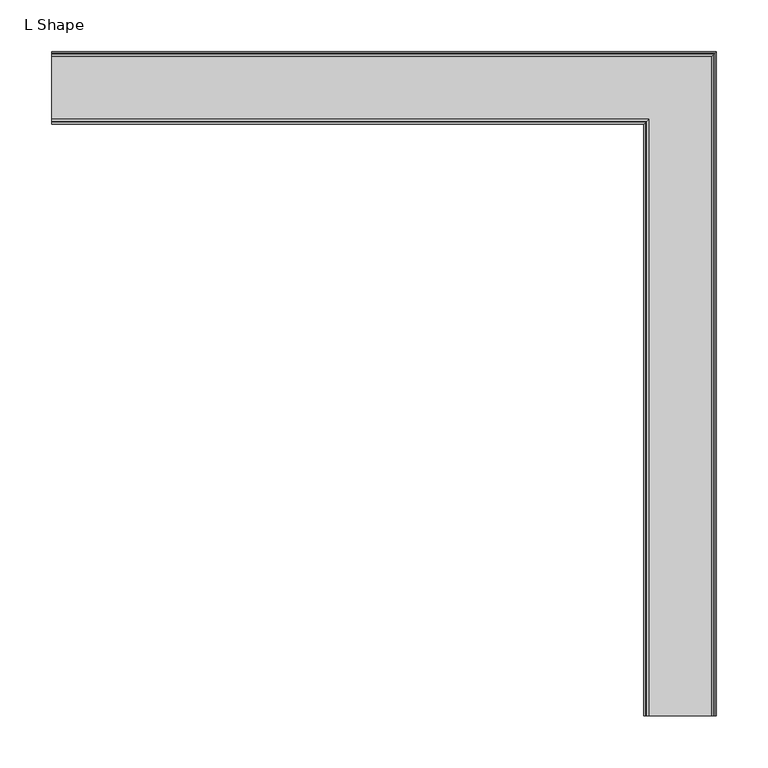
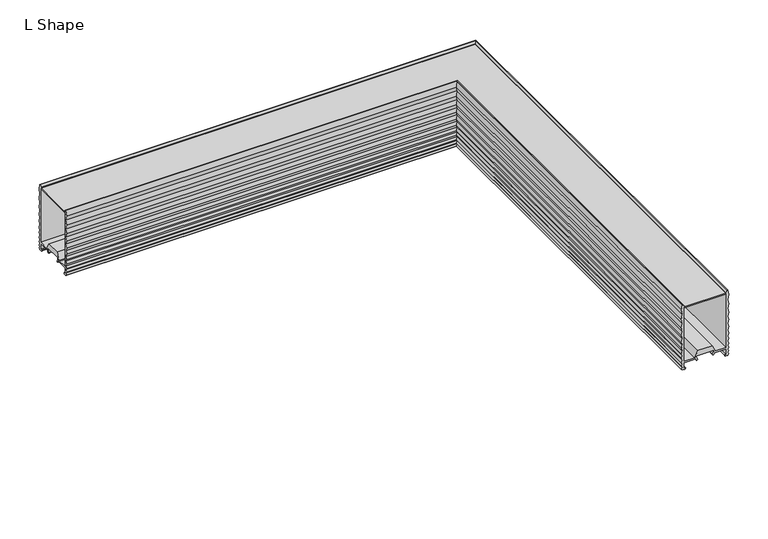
"""IFC4 building model written with IfcOpenShell, lengths in millimetres: light fixture geometry, Lighting-Ceiling-Betacalco-Bellows-L_Shape : L Shape."""

from ifc_helpers import new_model, si_unit, frame, origin, place, context, project, spatial, polyline, circle_curve, ellipse_curve, outline, extrude, source, transform, mapped, element, save
from ifc_brep_helpers import plane_surface, cylinder_surface, advanced_brep


def l_shape_abac3c9d(model_context):
    return source(origin(), model_context, "Body", "SolidModel", [
        advanced_brep(
        [(273.578, -609.6, 10.668), (291.2870711, -609.6, 10.668), (292.0570321, -609.6, 8.614822), (293.7447356, -609.6, 9.2406239), (292.11399, -609.6, 13.5891701), (292.7358437, -609.6, 14.8333325), (316.8641563, -609.6, 14.8333325), (317.48601, -609.6, 13.5891701), (315.8552644, -609.6, 9.2406239), (317.5429679, -609.6, 8.614822), (318.3129289, -609.6, 10.668), (336.022, -609.6, 10.668), (336.022, -609.6, 2.159), (333.4925845, -609.6, 2.159), (335.4378, -609.6, 0.0), (338.0887943, -609.6, 0.0), (339.9621621, -609.6, 2.0283861), (338.181, -609.6, 4.064), (339.959, -609.6, 6.604), (338.181, -609.6, 9.144), (339.959, -609.6, 12.192), (338.181, -609.6, 15.24), (339.959, -609.6, 18.796), (338.181, -609.6, 22.352), (339.959, -609.6, 26.162), (338.181, -609.6, 29.972), (339.9303587, -609.6, 34.4703509), (338.2082002, -609.6, 39.0460566), (339.9355055, -609.6, 44.1288728), (338.2034215, -609.6, 49.2119386), (339.9393965, -609.6, 54.802389), (338.1997837, -609.6, 60.3929656), (339.9424053, -609.6, 66.491104), (338.1964031, -609.6, 72.5911894), (339.9466792, -609.6, 79.7067168), (338.1931082, -609.6, 86.8195673), (339.9474913, -609.6, 94.186321), (338.1814932, -609.6, 101.6), (337.3877432, -609.6, 101.6), (335.22825, -609.6, 99.2470342), (335.22825, -609.6, 97.7961196), (336.022, -609.6, 97.7961196), (336.022, -609.6, 12.827), (320.2806146, -609.6, 12.827), (315.4222255, -609.6, 22.5473325), (294.1777745, -609.6, 22.5473325), (289.3193854, -609.6, 12.827), (273.578, -609.6, 12.827), (273.578, -609.6, 97.7961196), (274.37175, -609.6, 97.7961196), (274.37175, -609.6, 99.2470342), (272.2122568, -609.6, 101.6), (271.4185068, -609.6, 101.6), (269.6525087, -609.6, 94.186321), (271.4068918, -609.6, 86.8195673), (269.6533208, -609.6, 79.7067168), (271.4035969, -609.6, 72.5911894), (269.6575947, -609.6, 66.491104), (271.4002163, -609.6, 60.3929656), (269.6606035, -609.6, 54.802389), (271.3965785, -609.6, 49.2119386), (269.6644945, -609.6, 44.1288728), (271.3917998, -609.6, 39.0460566), (269.6696413, -609.6, 34.4703509), (271.419, -609.6, 29.972), (269.641, -609.6, 26.162), (271.419, -609.6, 22.352), (269.641, -609.6, 18.796), (271.419, -609.6, 15.24), (269.641, -609.6, 12.192), (271.419, -609.6, 9.144), (269.641, -609.6, 6.604), (271.419, -609.6, 4.064), (269.6378379, -609.6, 2.0283861), (271.5112057, -609.6, 0.0), (274.1622, -609.6, 0.0), (276.1074155, -609.6, 2.159), (273.578, -609.6, 2.159), (-304.8, -31.222, 10.668), (-304.8, -31.222, 2.159), (-304.8, -28.6925845, 2.159), (-304.8, -30.6378, 0.0), (-304.8, -33.2887943, 0.0), (-304.8, -35.1621621, 2.0283861), (-304.8, -33.381, 4.064), (-304.8, -35.159, 6.604), (-304.8, -33.381, 9.144), (-304.8, -35.159, 12.192), (-304.8, -33.381, 15.24), (-304.8, -35.159, 18.796), (-304.8, -33.381, 22.352), (-304.8, -35.159, 26.162), (-304.8, -33.381, 29.972), (-304.8, -35.1303587, 34.4703509), (-304.8, -33.4082002, 39.0460566), (-304.8, -35.1355055, 44.1288728), (-304.8, -33.4034215, 49.2119386), (-304.8, -35.1393965, 54.802389), (-304.8, -33.3997837, 60.3929656), (-304.8, -35.1424053, 66.491104), (-304.8, -33.3964031, 72.5911894), (-304.8, -35.1466792, 79.7067168), (-304.8, -33.3931082, 86.8195673), (-304.8, -35.1474913, 94.186321), (-304.8, -33.3814932, 101.6), (-304.8, -32.5877432, 101.6), (-304.8, -30.42825, 99.2470342), (-304.8, -30.42825, 97.7961196), (-304.8, -31.222, 97.7961196), (-304.8, -31.222, 12.827), (-304.8, -15.4806146, 12.827), (-304.8, -10.6222255, 22.5473325), (-304.8, 10.6222255, 22.5473325), (-304.8, 15.4806146, 12.827), (-304.8, 31.222, 12.827), (-304.8, 31.222, 97.7961196), (-304.8, 30.42825, 97.7961196), (-304.8, 30.42825, 99.2470342), (-304.8, 32.5877432, 101.6), (-304.8, 33.3814932, 101.6), (-304.8, 35.1474913, 94.186321), (-304.8, 33.3931082, 86.8195673), (-304.8, 35.1466792, 79.7067168), (-304.8, 33.3964031, 72.5911894), (-304.8, 35.1424053, 66.491104), (-304.8, 33.3997837, 60.3929656), (-304.8, 35.1393965, 54.802389), (-304.8, 33.4034215, 49.2119386), (-304.8, 35.1355055, 44.1288728), (-304.8, 33.4082002, 39.0460566), (-304.8, 35.1303587, 34.4703509), (-304.8, 33.381, 29.972), (-304.8, 35.159, 26.162), (-304.8, 33.381, 22.352), (-304.8, 35.159, 18.796), (-304.8, 33.381, 15.24), (-304.8, 35.159, 12.192), (-304.8, 33.381, 9.144), (-304.8, 35.159, 6.604), (-304.8, 33.381, 4.064), (-304.8, 35.1621621, 2.0283861), (-304.8, 33.2887943, 0.0), (-304.8, 30.6378, 0.0), (-304.8, 28.6925845, 2.159), (-304.8, 31.222, 2.159), (-304.8, 31.222, 10.668), (-304.8, 13.5129289, 10.668), (-304.8, 12.7429679, 8.614822), (-304.8, 11.0552644, 9.2406239), (-304.8, 12.68601, 13.5891701), (-304.8, 12.0641563, 14.8333325), (-304.8, -12.0641563, 14.8333325), (-304.8, -12.68601, 13.5891701), (-304.8, -11.0552644, 9.2406239), (-304.8, -12.7429679, 8.614822), (-304.8, -13.5129289, 10.668), (292.0570321, -12.7429679, 8.614822), (291.2870711, -13.5129289, 10.668), (293.7447356, -11.0552644, 9.2406239), (292.11399, -12.68601, 13.5891701), (292.7358437, -12.0641563, 14.8333325), (317.48601, 12.68601, 13.5891701), (316.8641563, 12.0641563, 14.8333325), (315.8552644, 11.0552644, 9.2406239), (317.5429679, 12.7429679, 8.614822), (318.3129289, 13.5129289, 10.668), (336.022, 31.222, 2.159), (336.022, 31.222, 10.668), (335.4378, 30.6378, 0.0), (333.4925845, 28.6925845, 2.159), (339.9621621, 35.1621621, 2.0283861), (338.0887943, 33.2887943, 0.0), (338.181, 33.381, 4.064), (339.959, 35.159, 6.604), (338.181, 33.381, 9.144), (339.959, 35.159, 12.192), (338.181, 33.381, 15.24), (339.959, 35.159, 18.796), (338.181, 33.381, 22.352), (339.959, 35.159, 26.162), (338.181, 33.381, 29.972), (339.9303587, 35.1303587, 34.4703509), (338.2082002, 33.4082002, 39.0460566), (339.9355055, 35.1355055, 44.1288728), (338.2034215, 33.4034215, 49.2119386), (339.9393965, 35.1393965, 54.802389), (338.1997837, 33.3997837, 60.3929656), (339.9424053, 35.1424053, 66.491104), (338.1964031, 33.3964031, 72.5911894), (339.9466792, 35.1466792, 79.7067168), (338.1931082, 33.3931082, 86.8195673), (339.9474913, 35.1474913, 94.186321), (338.1814932, 33.3814932, 101.6), (335.22825, 30.42825, 99.2470342), (337.3877432, 32.5877432, 101.6), (335.22825, 30.42825, 97.7961196), (336.022, 31.222, 12.827), (336.022, 31.222, 97.7961196), (315.4222255, 10.6222255, 22.5473325), (320.2806146, 15.4806146, 12.827), (289.3193854, -15.4806146, 12.827), (294.1777745, -10.6222255, 22.5473325), (273.578, -31.222, 97.7961196), (273.578, -31.222, 12.827), (274.37175, -30.42825, 99.2470342), (274.37175, -30.42825, 97.7961196), (272.2122568, -32.5877432, 101.6), (269.6525087, -35.1474913, 94.186321), (271.4185068, -33.3814932, 101.6), (271.4068918, -33.3931082, 86.8195673), (269.6533208, -35.1466792, 79.7067168), (271.4035969, -33.3964031, 72.5911894), (269.6575947, -35.1424053, 66.491104), (271.4002163, -33.3997837, 60.3929656), (269.6606035, -35.1393965, 54.802389), (271.3965785, -33.4034215, 49.2119386), (269.6644945, -35.1355055, 44.1288728), (271.3917998, -33.4082002, 39.0460566), (269.6696413, -35.1303587, 34.4703509), (271.419, -33.381, 29.972), (269.641, -35.159, 26.162), (271.419, -33.381, 22.352), (269.641, -35.159, 18.796), (271.419, -33.381, 15.24), (269.641, -35.159, 12.192), (271.419, -33.381, 9.144), (269.641, -35.159, 6.604), (271.419, -33.381, 4.064), (269.6378379, -35.1621621, 2.0283861), (271.5112057, -33.2887943, 0.0), (276.1074155, -28.6925845, 2.159), (274.1622, -30.6378, 0.0), (273.578, -31.222, 10.668), (273.578, -31.222, 2.159)],
        [
            (0, 1),
            (1, 2),
            (2, 3, circle_curve(frame((292.8997277, -609.6, 8.9308408), z_axis=(0.0, -1.0, 0.0), x_axis=(0.34325550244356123, 0.0, -0.9392420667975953)), 0.9000021)),
            (3, 4),
            (4, 5),
            (5, 6),
            (6, 7),
            (7, 8),
            (8, 9, circle_curve(frame((316.7002723, -609.6, 8.9308408), z_axis=(0.0, -1.0, 0.0), x_axis=(-0.34325550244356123, 0.0, -0.9392420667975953)), 0.9000021)),
            (9, 10),
            (10, 11),
            (11, 12),
            (12, 13),
            (13, 14, circle_curve(frame((335.4378, -609.6, 1.9558), z_axis=(0.0, -1.0, 0.0), x_axis=(0.0, 0.0, -1.0)), 1.9558)),
            (14, 15),
            (15, 16),
            (16, 17),
            (17, 18),
            (18, 19),
            (19, 20),
            (20, 21),
            (21, 22),
            (22, 23),
            (23, 24),
            (24, 25),
            (25, 26),
            (26, 27),
            (27, 28),
            (28, 29),
            (29, 30),
            (30, 31),
            (31, 32),
            (32, 33),
            (33, 34),
            (34, 35),
            (35, 36),
            (36, 37),
            (37, 38),
            (38, 39),
            (39, 40),
            (40, 41),
            (41, 42),
            (42, 43),
            (43, 44),
            (44, 45),
            (45, 46),
            (46, 47),
            (47, 48),
            (48, 49),
            (49, 50),
            (50, 51),
            (51, 52),
            (52, 53),
            (53, 54),
            (54, 55),
            (55, 56),
            (56, 57),
            (57, 58),
            (58, 59),
            (59, 60),
            (60, 61),
            (61, 62),
            (62, 63),
            (63, 64),
            (64, 65),
            (65, 66),
            (66, 67),
            (67, 68),
            (68, 69),
            (69, 70),
            (70, 71),
            (71, 72),
            (72, 73),
            (73, 74),
            (74, 75),
            (75, 76, circle_curve(frame((274.1622, -609.6, 1.9558), z_axis=(0.0, -1.0, 0.0), x_axis=(0.0, 0.0, -1.0)), 1.9558)),
            (76, 77),
            (77, 0),
            (78, 79),
            (79, 80),
            (80, 81, circle_curve(frame((-304.8, -30.6378, 1.9558), z_axis=(-1.0, 0.0, 0.0), x_axis=(0.0, 0.0, -1.0)), 1.9558)),
            (81, 82),
            (82, 83),
            (83, 84),
            (84, 85),
            (85, 86),
            (86, 87),
            (87, 88),
            (88, 89),
            (89, 90),
            (90, 91),
            (91, 92),
            (92, 93),
            (93, 94),
            (94, 95),
            (95, 96),
            (96, 97),
            (97, 98),
            (98, 99),
            (99, 100),
            (100, 101),
            (101, 102),
            (102, 103),
            (103, 104),
            (104, 105),
            (105, 106),
            (106, 107),
            (107, 108),
            (108, 109),
            (109, 110),
            (110, 111),
            (111, 112),
            (112, 113),
            (113, 114),
            (114, 115),
            (115, 116),
            (116, 117),
            (117, 118),
            (118, 119),
            (119, 120),
            (120, 121),
            (121, 122),
            (122, 123),
            (123, 124),
            (124, 125),
            (125, 126),
            (126, 127),
            (127, 128),
            (128, 129),
            (129, 130),
            (130, 131),
            (131, 132),
            (132, 133),
            (133, 134),
            (134, 135),
            (135, 136),
            (136, 137),
            (137, 138),
            (138, 139),
            (139, 140),
            (140, 141),
            (141, 142),
            (142, 143, circle_curve(frame((-304.8, 30.6378, 1.9558), z_axis=(-1.0, 0.0, 0.0), x_axis=(0.0, 0.0, -1.0)), 1.9558)),
            (143, 144),
            (144, 145),
            (145, 146),
            (146, 147),
            (147, 148, circle_curve(frame((-304.8, 11.9002723, 8.9308408), z_axis=(-1.0, 0.0, 0.0), x_axis=(0.0, -0.34325550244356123, -0.9392420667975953)), 0.9000021)),
            (148, 149),
            (149, 150),
            (150, 151),
            (151, 152),
            (152, 153),
            (153, 154, circle_curve(frame((-304.8, -11.9002723, 8.9308408), z_axis=(-1.0, 0.0, 0.0), x_axis=(0.0, 0.34325550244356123, -0.9392420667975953)), 0.9000021)),
            (154, 155),
            (155, 78),
            (156, 157),
            (157, 155),
            (154, 156),
            (158, 156, ellipse_curve(frame((292.8997277, -11.9002723, 8.9308408), z_axis=(-0.7071067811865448, 0.7071067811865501, 0.0), x_axis=(0.7071067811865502, 0.7071067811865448, 0.0)), 1.2727952, 0.9000021)),
            (153, 158),
            (159, 158),
            (152, 159),
            (160, 159),
            (151, 160),
            (161, 162),
            (162, 150),
            (149, 161),
            (163, 161),
            (148, 163),
            (164, 163, ellipse_curve(frame((316.7002723, 11.9002723, 8.9308408), z_axis=(-0.7071067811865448, 0.7071067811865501, 0.0), x_axis=(0.7071067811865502, 0.7071067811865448, 0.0)), 1.2727952, 0.9000021)),
            (147, 164),
            (165, 164),
            (146, 165),
            (166, 167),
            (167, 145),
            (144, 166),
            (168, 169, ellipse_curve(frame((335.4378, 30.6378, 1.9558), z_axis=(-0.7071067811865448, 0.7071067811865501, 0.0), x_axis=(0.7071067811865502, 0.7071067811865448, 0.0)), 2.7659189, 1.9558)),
            (169, 143),
            (142, 168),
            (170, 171),
            (171, 141),
            (140, 170),
            (172, 170),
            (139, 172),
            (173, 172),
            (138, 173),
            (174, 173),
            (137, 174),
            (175, 174),
            (136, 175),
            (176, 175),
            (135, 176),
            (177, 176),
            (134, 177),
            (178, 177),
            (133, 178),
            (179, 178),
            (132, 179),
            (180, 179),
            (131, 180),
            (181, 180),
            (130, 181),
            (182, 181),
            (129, 182),
            (183, 182),
            (128, 183),
            (184, 183),
            (127, 184),
            (185, 184),
            (126, 185),
            (186, 185),
            (125, 186),
            (187, 186),
            (124, 187),
            (188, 187),
            (123, 188),
            (189, 188),
            (122, 189),
            (190, 189),
            (121, 190),
            (191, 190),
            (120, 191),
            (192, 191),
            (119, 192),
            (193, 194),
            (194, 118),
            (117, 193),
            (195, 193),
            (116, 195),
            (196, 197),
            (197, 115),
            (114, 196),
            (198, 199),
            (199, 113),
            (112, 198),
            (200, 201),
            (201, 111),
            (110, 200),
            (202, 203),
            (203, 109),
            (108, 202),
            (204, 205),
            (205, 107),
            (106, 204),
            (206, 204),
            (105, 206),
            (207, 208),
            (208, 104),
            (103, 207),
            (209, 207),
            (102, 209),
            (210, 209),
            (101, 210),
            (211, 210),
            (100, 211),
            (212, 211),
            (99, 212),
            (213, 212),
            (98, 213),
            (214, 213),
            (97, 214),
            (215, 214),
            (96, 215),
            (216, 215),
            (95, 216),
            (217, 216),
            (94, 217),
            (218, 217),
            (93, 218),
            (219, 218),
            (92, 219),
            (220, 219),
            (91, 220),
            (221, 220),
            (90, 221),
            (222, 221),
            (89, 222),
            (223, 222),
            (88, 223),
            (224, 223),
            (87, 224),
            (225, 224),
            (86, 225),
            (226, 225),
            (85, 226),
            (227, 226),
            (84, 227),
            (228, 227),
            (83, 228),
            (229, 228),
            (82, 229),
            (230, 231, ellipse_curve(frame((274.1622, -30.6378, 1.9558), z_axis=(-0.7071067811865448, 0.7071067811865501, 0.0), x_axis=(0.7071067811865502, 0.7071067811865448, 0.0)), 2.7659189, 1.9558)),
            (231, 81),
            (80, 230),
            (232, 233),
            (233, 79),
            (78, 232),
            (0, 232),
            (157, 1),
            (156, 2),
            (158, 3),
            (159, 4),
            (160, 5),
            (162, 6),
            (161, 7),
            (163, 8),
            (164, 9),
            (165, 10),
            (167, 11),
            (166, 12),
            (169, 13),
            (168, 14),
            (171, 15),
            (170, 16),
            (172, 17),
            (173, 18),
            (174, 19),
            (175, 20),
            (176, 21),
            (177, 22),
            (178, 23),
            (179, 24),
            (180, 25),
            (181, 26),
            (182, 27),
            (183, 28),
            (184, 29),
            (185, 30),
            (186, 31),
            (187, 32),
            (188, 33),
            (189, 34),
            (190, 35),
            (191, 36),
            (192, 37),
            (194, 38),
            (193, 39),
            (195, 40),
            (197, 41),
            (196, 42),
            (199, 43),
            (198, 44),
            (201, 45),
            (200, 46),
            (203, 47),
            (202, 48),
            (205, 49),
            (204, 50),
            (206, 51),
            (208, 52),
            (207, 53),
            (209, 54),
            (210, 55),
            (211, 56),
            (212, 57),
            (213, 58),
            (214, 59),
            (215, 60),
            (216, 61),
            (217, 62),
            (218, 63),
            (219, 64),
            (220, 65),
            (221, 66),
            (222, 67),
            (223, 68),
            (224, 69),
            (225, 70),
            (226, 71),
            (227, 72),
            (228, 73),
            (229, 74),
            (231, 75),
            (230, 76),
            (233, 77),
        ],
        [
            plane_surface(frame((304.8, -609.6, 0.0), z_axis=(0.0, -1.0, 0.0), x_axis=(0.0, 0.0, 1.0))),
            plane_surface(frame((-304.8, 0.0, 0.0), z_axis=(-1.0, 0.0, 0.0), x_axis=(0.0, 0.0, 1.0))),
            plane_surface(frame((291.2870711, -13.5129289, 10.668), z_axis=(0.0, -0.9363262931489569, -0.3511311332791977), x_axis=(-1.0, 0.0, 0.0))),
            cylinder_surface(frame((304.8, -11.9002723, 8.9308408), z_axis=(1.0, 0.0, 0.0), x_axis=(0.0, 0.34325550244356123, -0.9392420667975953)), 0.9000021),
            plane_surface(frame((293.7447356, -11.0552644, 9.2406239), z_axis=(0.0, 0.9363262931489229, 0.35113113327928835), x_axis=(-1.0, 0.0, 0.0))),
            plane_surface(frame((292.11399, -12.68601, 13.5891701), z_axis=(0.0, 0.89449260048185, -0.44708275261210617), x_axis=(-1.0, 0.0, 0.0))),
            plane_surface(frame((316.8641563, 12.0641563, 14.8333325), z_axis=(0.0, -0.89449260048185, -0.44708275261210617), x_axis=(-1.0, 0.0, 0.0))),
            plane_surface(frame((317.48601, 12.68601, 13.5891701), z_axis=(0.0, -0.9363262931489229, 0.35113113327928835), x_axis=(-1.0, 0.0, 0.0))),
            cylinder_surface(frame((304.8, 11.9002723, 8.9308408), z_axis=(1.0, 0.0, 0.0), x_axis=(0.0, -0.34325550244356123, -0.9392420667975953)), 0.9000021),
            plane_surface(frame((317.5429679, 12.7429679, 8.614822), z_axis=(0.0, 0.9363262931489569, -0.3511311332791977), x_axis=(-1.0, 0.0, 0.0))),
            plane_surface(frame((336.022, 31.222, 10.668), z_axis=(0.0, -1.0, 0.0), x_axis=(-1.0, 0.0, 0.0))),
            cylinder_surface(frame((304.8, 30.6378, 1.9558), z_axis=(1.0, 0.0, 0.0), x_axis=(0.0, 0.0, -1.0)), 1.9558),
            plane_surface(frame((338.0887943, 33.2887943, 0.0), z_axis=(0.0, 0.7346208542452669, -0.6784778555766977), x_axis=(-1.0, 0.0, 0.0))),
            plane_surface(frame((339.9621621, 35.1621621, 2.0283861), z_axis=(0.0, 0.75257669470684, 0.6585046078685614), x_axis=(-1.0, 0.0, 0.0))),
            plane_surface(frame((338.181, 33.381, 4.064), z_axis=(0.0, 0.8192319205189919, -0.5734623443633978), x_axis=(-1.0, 0.0, 0.0))),
            plane_surface(frame((339.959, 35.159, 6.604), z_axis=(0.0, 0.8192319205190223, 0.5734623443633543), x_axis=(-1.0, 0.0, 0.0))),
            plane_surface(frame((338.181, 33.381, 9.144), z_axis=(0.0, 0.8637789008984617, -0.503871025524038), x_axis=(-1.0, 0.0, 0.0))),
            plane_surface(frame((339.959, 35.159, 12.192), z_axis=(0.0, 0.8637789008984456, 0.5038710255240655), x_axis=(-1.0, 0.0, 0.0))),
            plane_surface(frame((338.181, 33.381, 15.24), z_axis=(0.0, 0.8944271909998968, -0.4472135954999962), x_axis=(-1.0, 0.0, 0.0))),
            plane_surface(frame((339.959, 35.159, 18.796), z_axis=(0.0, 0.8944271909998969, 0.44721359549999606), x_axis=(-1.0, 0.0, 0.0))),
            plane_surface(frame((338.181, 33.381, 22.352), z_axis=(0.0, 0.9061831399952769, -0.4228854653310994), x_axis=(-1.0, 0.0, 0.0))),
            plane_surface(frame((339.959, 35.159, 26.162), z_axis=(0.0, 0.9061831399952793, 0.4228854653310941), x_axis=(-1.0, 0.0, 0.0))),
            plane_surface(frame((338.181, 33.381, 29.972), z_axis=(0.0, 0.9320046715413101, -0.362446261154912), x_axis=(-1.0, 0.0, 0.0))),
            plane_surface(frame((339.9303587, 35.1303587, 34.4703509), z_axis=(0.0, 0.9359069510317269, 0.35224732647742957), x_axis=(-1.0, 0.0, 0.0))),
            plane_surface(frame((338.2082002, 33.4082002, 39.0460566), z_axis=(0.0, 0.9468211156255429, -0.3217604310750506), x_axis=(-1.0, 0.0, 0.0))),
            plane_surface(frame((339.9355055, 35.1355055, 44.1288728), z_axis=(0.0, 0.9465545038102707, 0.3225439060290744), x_axis=(-1.0, 0.0, 0.0))),
            plane_surface(frame((338.2034215, 33.4034215, 49.2119386), z_axis=(0.0, 0.9550153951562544, -0.2965562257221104), x_axis=(-1.0, 0.0, 0.0))),
            plane_surface(frame((339.9393965, 35.1393965, 54.802389), z_axis=(0.0, 0.9548411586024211, 0.29711674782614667), x_axis=(-1.0, 0.0, 0.0))),
            plane_surface(frame((338.1997837, 33.3997837, 60.3929656), z_axis=(0.0, 0.9615116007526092, -0.2747643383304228), x_axis=(-1.0, 0.0, 0.0))),
            plane_surface(frame((339.9424053, 35.1424053, 66.491104), z_axis=(0.0, 0.9613939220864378, 0.27517581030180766), x_axis=(-1.0, 0.0, 0.0))),
            plane_surface(frame((338.1964031, 33.3964031, 72.5911894), z_axis=(0.0, 0.971054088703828, -0.23885970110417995), x_axis=(-1.0, 0.0, 0.0))),
            plane_surface(frame((339.9466792, 35.1466792, 79.7067168), z_axis=(0.0, 0.9709287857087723, 0.23936852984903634), x_axis=(-1.0, 0.0, 0.0))),
            plane_surface(frame((338.1931082, 33.3931082, 86.8195673), z_axis=(0.0, 0.9727944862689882, -0.23166978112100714), x_axis=(-1.0, 0.0, 0.0))),
            plane_surface(frame((339.9474913, 35.1474913, 94.186321), z_axis=(0.0, 0.9727814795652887, 0.23172439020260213), x_axis=(-1.0, 0.0, 0.0))),
            plane_surface(frame((337.3877432, 32.5877432, 101.6), z_axis=(0.0, -0.7367472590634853, 0.6761682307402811), x_axis=(-1.0, 0.0, 0.0))),
            plane_surface(frame((335.22825, 30.42825, 99.2470342), z_axis=(0.0, -1.0, 0.0), x_axis=(-1.0, 0.0, 0.0))),
            plane_surface(frame((336.022, 31.222, 97.7961196), z_axis=(0.0, -1.0, 0.0), x_axis=(-1.0, 0.0, 0.0))),
            plane_surface(frame((320.2806146, 15.4806146, 12.827), z_axis=(0.0, 0.8944926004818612, 0.4470827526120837), x_axis=(-1.0, 0.0, 0.0))),
            plane_surface(frame((294.1777745, -10.6222255, 22.5473325), z_axis=(0.0, -0.8944926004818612, 0.4470827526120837), x_axis=(-1.0, 0.0, 0.0))),
            plane_surface(frame((273.578, -31.222, 12.827), z_axis=(0.0, 1.0, 0.0), x_axis=(-1.0, 0.0, 0.0))),
            plane_surface(frame((274.37175, -30.42825, 97.7961196), z_axis=(0.0, 1.0, 0.0), x_axis=(-1.0, 0.0, 0.0))),
            plane_surface(frame((274.37175, -30.42825, 99.2470342), z_axis=(0.0, 0.7367472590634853, 0.6761682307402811), x_axis=(-1.0, 0.0, 0.0))),
            plane_surface(frame((271.4185068, -33.3814932, 101.6), z_axis=(0.0, -0.9727814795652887, 0.23172439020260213), x_axis=(-1.0, 0.0, 0.0))),
            plane_surface(frame((269.6525087, -35.1474913, 94.186321), z_axis=(0.0, -0.9727944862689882, -0.23166978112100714), x_axis=(-1.0, 0.0, 0.0))),
            plane_surface(frame((271.4068918, -33.3931082, 86.8195673), z_axis=(0.0, -0.9709287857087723, 0.23936852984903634), x_axis=(-1.0, 0.0, 0.0))),
            plane_surface(frame((269.6533208, -35.1466792, 79.7067168), z_axis=(0.0, -0.971054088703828, -0.23885970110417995), x_axis=(-1.0, 0.0, 0.0))),
            plane_surface(frame((271.4035969, -33.3964031, 72.5911894), z_axis=(0.0, -0.9613939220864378, 0.27517581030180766), x_axis=(-1.0, 0.0, 0.0))),
            plane_surface(frame((269.6575947, -35.1424053, 66.491104), z_axis=(0.0, -0.9615116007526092, -0.2747643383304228), x_axis=(-1.0, 0.0, 0.0))),
            plane_surface(frame((271.4002163, -33.3997837, 60.3929656), z_axis=(0.0, -0.9548411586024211, 0.29711674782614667), x_axis=(-1.0, 0.0, 0.0))),
            plane_surface(frame((269.6606035, -35.1393965, 54.802389), z_axis=(0.0, -0.9550153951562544, -0.2965562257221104), x_axis=(-1.0, 0.0, 0.0))),
            plane_surface(frame((271.3965785, -33.4034215, 49.2119386), z_axis=(0.0, -0.9465545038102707, 0.3225439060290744), x_axis=(-1.0, 0.0, 0.0))),
            plane_surface(frame((269.6644945, -35.1355055, 44.1288728), z_axis=(0.0, -0.9468211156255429, -0.3217604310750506), x_axis=(-1.0, 0.0, 0.0))),
            plane_surface(frame((271.3917998, -33.4082002, 39.0460566), z_axis=(0.0, -0.9359069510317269, 0.35224732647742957), x_axis=(-1.0, 0.0, 0.0))),
            plane_surface(frame((269.6696413, -35.1303587, 34.4703509), z_axis=(0.0, -0.9320046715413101, -0.362446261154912), x_axis=(-1.0, 0.0, 0.0))),
            plane_surface(frame((271.419, -33.381, 29.972), z_axis=(0.0, -0.9061831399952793, 0.4228854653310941), x_axis=(-1.0, 0.0, 0.0))),
            plane_surface(frame((269.641, -35.159, 26.162), z_axis=(0.0, -0.9061831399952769, -0.4228854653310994), x_axis=(-1.0, 0.0, 0.0))),
            plane_surface(frame((271.419, -33.381, 22.352), z_axis=(0.0, -0.8944271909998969, 0.44721359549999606), x_axis=(-1.0, 0.0, 0.0))),
            plane_surface(frame((269.641, -35.159, 18.796), z_axis=(0.0, -0.8944271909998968, -0.4472135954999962), x_axis=(-1.0, 0.0, 0.0))),
            plane_surface(frame((271.419, -33.381, 15.24), z_axis=(0.0, -0.8637789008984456, 0.5038710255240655), x_axis=(-1.0, 0.0, 0.0))),
            plane_surface(frame((269.641, -35.159, 12.192), z_axis=(0.0, -0.8637789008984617, -0.503871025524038), x_axis=(-1.0, 0.0, 0.0))),
            plane_surface(frame((271.419, -33.381, 9.144), z_axis=(0.0, -0.8192319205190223, 0.5734623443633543), x_axis=(-1.0, 0.0, 0.0))),
            plane_surface(frame((269.641, -35.159, 6.604), z_axis=(0.0, -0.8192319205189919, -0.5734623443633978), x_axis=(-1.0, 0.0, 0.0))),
            plane_surface(frame((271.419, -33.381, 4.064), z_axis=(0.0, -0.75257669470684, 0.6585046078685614), x_axis=(-1.0, 0.0, 0.0))),
            plane_surface(frame((269.6378379, -35.1621621, 2.0283861), z_axis=(0.0, -0.7346208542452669, -0.6784778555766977), x_axis=(-1.0, 0.0, 0.0))),
            cylinder_surface(frame((304.8, -30.6378, 1.9558), z_axis=(1.0, 0.0, 0.0), x_axis=(0.0, 0.0, -1.0)), 1.9558),
            plane_surface(frame((273.578, -31.222, 2.159), z_axis=(0.0, 1.0, 0.0), x_axis=(-1.0, 0.0, 0.0))),
            plane_surface(frame((273.578, -609.6, 10.668), z_axis=(0.0, 0.0, -1.0), x_axis=(0.0, 1.0, 0.0))),
            plane_surface(frame((291.2870711, -609.6, 10.668), z_axis=(-0.9363262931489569, 0.0, -0.3511311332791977), x_axis=(0.0, 1.0, 0.0))),
            cylinder_surface(frame((292.8997277, -609.6, 8.9308408), z_axis=(0.0, -1.0, 0.0), x_axis=(0.34325550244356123, 0.0, -0.9392420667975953)), 0.9000021),
            plane_surface(frame((293.7447356, -609.6, 9.2406239), z_axis=(0.9363262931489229, 0.0, 0.35113113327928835), x_axis=(0.0, 1.0, 0.0))),
            plane_surface(frame((292.11399, -609.6, 13.5891701), z_axis=(0.89449260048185, 0.0, -0.44708275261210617), x_axis=(0.0, 1.0, 0.0))),
            plane_surface(frame((292.7358437, -609.6, 14.8333325), z_axis=(0.0, 0.0, -1.0), x_axis=(0.0, 1.0, 0.0))),
            plane_surface(frame((316.8641563, -609.6, 14.8333325), z_axis=(-0.89449260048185, 0.0, -0.44708275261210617), x_axis=(0.0, 1.0, 0.0))),
            plane_surface(frame((317.48601, -609.6, 13.5891701), z_axis=(-0.9363262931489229, 0.0, 0.35113113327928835), x_axis=(0.0, 1.0, 0.0))),
            cylinder_surface(frame((316.7002723, -609.6, 8.9308408), z_axis=(0.0, -1.0, 0.0), x_axis=(-0.34325550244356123, 0.0, -0.9392420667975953)), 0.9000021),
            plane_surface(frame((317.5429679, -609.6, 8.614822), z_axis=(0.9363262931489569, 0.0, -0.3511311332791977), x_axis=(0.0, 1.0, 0.0))),
            plane_surface(frame((318.3129289, -609.6, 10.668), z_axis=(0.0, 0.0, -1.0), x_axis=(0.0, 1.0, 0.0))),
            plane_surface(frame((336.022, -609.6, 10.668), z_axis=(-1.0, 0.0, 0.0), x_axis=(0.0, 1.0, 0.0))),
            plane_surface(frame((336.022, -609.6, 2.159), z_axis=(0.0, 0.0, 1.0), x_axis=(0.0, 1.0, 0.0))),
            cylinder_surface(frame((335.4378, -609.6, 1.9558), z_axis=(0.0, -1.0, 0.0), x_axis=(0.0, 0.0, -1.0)), 1.9558),
            plane_surface(frame((335.4378, -609.6, 0.0), z_axis=(0.0, 0.0, -1.0), x_axis=(0.0, 1.0, 0.0))),
            plane_surface(frame((338.0887943, -609.6, 0.0), z_axis=(0.7346208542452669, 0.0, -0.6784778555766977), x_axis=(0.0, 1.0, 0.0))),
            plane_surface(frame((339.9621621, -609.6, 2.0283861), z_axis=(0.75257669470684, 0.0, 0.6585046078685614), x_axis=(0.0, 1.0, 0.0))),
            plane_surface(frame((338.181, -609.6, 4.064), z_axis=(0.8192319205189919, 0.0, -0.5734623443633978), x_axis=(0.0, 1.0, 0.0))),
            plane_surface(frame((339.959, -609.6, 6.604), z_axis=(0.8192319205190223, 0.0, 0.5734623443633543), x_axis=(0.0, 1.0, 0.0))),
            plane_surface(frame((338.181, -609.6, 9.144), z_axis=(0.8637789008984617, 0.0, -0.503871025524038), x_axis=(0.0, 1.0, 0.0))),
            plane_surface(frame((339.959, -609.6, 12.192), z_axis=(0.8637789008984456, 0.0, 0.5038710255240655), x_axis=(0.0, 1.0, 0.0))),
            plane_surface(frame((338.181, -609.6, 15.24), z_axis=(0.8944271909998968, 0.0, -0.4472135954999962), x_axis=(0.0, 1.0, 0.0))),
            plane_surface(frame((339.959, -609.6, 18.796), z_axis=(0.8944271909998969, 0.0, 0.44721359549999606), x_axis=(0.0, 1.0, 0.0))),
            plane_surface(frame((338.181, -609.6, 22.352), z_axis=(0.9061831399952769, 0.0, -0.4228854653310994), x_axis=(0.0, 1.0, 0.0))),
            plane_surface(frame((339.959, -609.6, 26.162), z_axis=(0.9061831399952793, 0.0, 0.4228854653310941), x_axis=(0.0, 1.0, 0.0))),
            plane_surface(frame((338.181, -609.6, 29.972), z_axis=(0.9320046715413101, 0.0, -0.362446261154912), x_axis=(0.0, 1.0, 0.0))),
            plane_surface(frame((339.9303587, -609.6, 34.4703509), z_axis=(0.9359069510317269, 0.0, 0.35224732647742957), x_axis=(0.0, 1.0, 0.0))),
            plane_surface(frame((338.2082002, -609.6, 39.0460566), z_axis=(0.9468211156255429, 0.0, -0.3217604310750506), x_axis=(0.0, 1.0, 0.0))),
            plane_surface(frame((339.9355055, -609.6, 44.1288728), z_axis=(0.9465545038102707, 0.0, 0.3225439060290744), x_axis=(0.0, 1.0, 0.0))),
            plane_surface(frame((338.2034215, -609.6, 49.2119386), z_axis=(0.9550153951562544, 0.0, -0.2965562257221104), x_axis=(0.0, 1.0, 0.0))),
            plane_surface(frame((339.9393965, -609.6, 54.802389), z_axis=(0.9548411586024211, 0.0, 0.29711674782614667), x_axis=(0.0, 1.0, 0.0))),
            plane_surface(frame((338.1997837, -609.6, 60.3929656), z_axis=(0.9615116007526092, 0.0, -0.2747643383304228), x_axis=(0.0, 1.0, 0.0))),
            plane_surface(frame((339.9424053, -609.6, 66.491104), z_axis=(0.9613939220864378, 0.0, 0.27517581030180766), x_axis=(0.0, 1.0, 0.0))),
            plane_surface(frame((338.1964031, -609.6, 72.5911894), z_axis=(0.971054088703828, 0.0, -0.23885970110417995), x_axis=(0.0, 1.0, 0.0))),
            plane_surface(frame((339.9466792, -609.6, 79.7067168), z_axis=(0.9709287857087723, 0.0, 0.23936852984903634), x_axis=(0.0, 1.0, 0.0))),
            plane_surface(frame((338.1931082, -609.6, 86.8195673), z_axis=(0.9727944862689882, 0.0, -0.23166978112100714), x_axis=(0.0, 1.0, 0.0))),
            plane_surface(frame((339.9474913, -609.6, 94.186321), z_axis=(0.9727814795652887, 0.0, 0.23172439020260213), x_axis=(0.0, 1.0, 0.0))),
            plane_surface(frame((338.1814932, -609.6, 101.6), z_axis=(0.0, 0.0, 1.0), x_axis=(0.0, 1.0, 0.0))),
            plane_surface(frame((337.3877432, -609.6, 101.6), z_axis=(-0.7367472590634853, 0.0, 0.6761682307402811), x_axis=(0.0, 1.0, 0.0))),
            plane_surface(frame((335.22825, -609.6, 99.2470342), z_axis=(-1.0, 0.0, 0.0), x_axis=(0.0, 1.0, 0.0))),
            plane_surface(frame((335.22825, -609.6, 97.7961196), z_axis=(0.0, 0.0, -1.0), x_axis=(0.0, 1.0, 0.0))),
            plane_surface(frame((336.022, -609.6, 97.7961196), z_axis=(-1.0, 0.0, 0.0), x_axis=(0.0, 1.0, 0.0))),
            plane_surface(frame((336.022, -609.6, 12.827), z_axis=(0.0, 0.0, 1.0), x_axis=(0.0, 1.0, 0.0))),
            plane_surface(frame((320.2806146, -609.6, 12.827), z_axis=(0.8944926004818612, 0.0, 0.4470827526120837), x_axis=(0.0, 1.0, 0.0))),
            plane_surface(frame((315.4222255, -609.6, 22.5473325), z_axis=(0.0, 0.0, 1.0), x_axis=(0.0, 1.0, 0.0))),
            plane_surface(frame((294.1777745, -609.6, 22.5473325), z_axis=(-0.8944926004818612, 0.0, 0.4470827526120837), x_axis=(0.0, 1.0, 0.0))),
            plane_surface(frame((289.3193854, -609.6, 12.827), z_axis=(0.0, 0.0, 1.0), x_axis=(0.0, 1.0, 0.0))),
            plane_surface(frame((273.578, -609.6, 12.827), z_axis=(1.0, 0.0, 0.0), x_axis=(0.0, 1.0, 0.0))),
            plane_surface(frame((273.578, -609.6, 97.7961196), z_axis=(0.0, 0.0, -1.0), x_axis=(0.0, 1.0, 0.0))),
            plane_surface(frame((274.37175, -609.6, 97.7961196), z_axis=(1.0, 0.0, 0.0), x_axis=(0.0, 1.0, 0.0))),
            plane_surface(frame((274.37175, -609.6, 99.2470342), z_axis=(0.7367472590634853, 0.0, 0.6761682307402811), x_axis=(0.0, 1.0, 0.0))),
            plane_surface(frame((272.2122568, -609.6, 101.6), z_axis=(0.0, 0.0, 1.0), x_axis=(0.0, 1.0, 0.0))),
            plane_surface(frame((271.4185068, -609.6, 101.6), z_axis=(-0.9727814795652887, 0.0, 0.23172439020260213), x_axis=(0.0, 1.0, 0.0))),
            plane_surface(frame((269.6525087, -609.6, 94.186321), z_axis=(-0.9727944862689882, 0.0, -0.23166978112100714), x_axis=(0.0, 1.0, 0.0))),
            plane_surface(frame((271.4068918, -609.6, 86.8195673), z_axis=(-0.9709287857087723, 0.0, 0.23936852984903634), x_axis=(0.0, 1.0, 0.0))),
            plane_surface(frame((269.6533208, -609.6, 79.7067168), z_axis=(-0.971054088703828, 0.0, -0.23885970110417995), x_axis=(0.0, 1.0, 0.0))),
            plane_surface(frame((271.4035969, -609.6, 72.5911894), z_axis=(-0.9613939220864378, 0.0, 0.27517581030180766), x_axis=(0.0, 1.0, 0.0))),
            plane_surface(frame((269.6575947, -609.6, 66.491104), z_axis=(-0.9615116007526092, 0.0, -0.2747643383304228), x_axis=(0.0, 1.0, 0.0))),
            plane_surface(frame((271.4002163, -609.6, 60.3929656), z_axis=(-0.9548411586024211, 0.0, 0.29711674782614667), x_axis=(0.0, 1.0, 0.0))),
            plane_surface(frame((269.6606035, -609.6, 54.802389), z_axis=(-0.9550153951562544, 0.0, -0.2965562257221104), x_axis=(0.0, 1.0, 0.0))),
            plane_surface(frame((271.3965785, -609.6, 49.2119386), z_axis=(-0.9465545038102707, 0.0, 0.3225439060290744), x_axis=(0.0, 1.0, 0.0))),
            plane_surface(frame((269.6644945, -609.6, 44.1288728), z_axis=(-0.9468211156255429, 0.0, -0.3217604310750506), x_axis=(0.0, 1.0, 0.0))),
            plane_surface(frame((271.3917998, -609.6, 39.0460566), z_axis=(-0.9359069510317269, 0.0, 0.35224732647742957), x_axis=(0.0, 1.0, 0.0))),
            plane_surface(frame((269.6696413, -609.6, 34.4703509), z_axis=(-0.9320046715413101, 0.0, -0.362446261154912), x_axis=(0.0, 1.0, 0.0))),
            plane_surface(frame((271.419, -609.6, 29.972), z_axis=(-0.9061831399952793, 0.0, 0.4228854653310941), x_axis=(0.0, 1.0, 0.0))),
            plane_surface(frame((269.641, -609.6, 26.162), z_axis=(-0.9061831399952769, 0.0, -0.4228854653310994), x_axis=(0.0, 1.0, 0.0))),
            plane_surface(frame((271.419, -609.6, 22.352), z_axis=(-0.8944271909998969, 0.0, 0.44721359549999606), x_axis=(0.0, 1.0, 0.0))),
            plane_surface(frame((269.641, -609.6, 18.796), z_axis=(-0.8944271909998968, 0.0, -0.4472135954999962), x_axis=(0.0, 1.0, 0.0))),
            plane_surface(frame((271.419, -609.6, 15.24), z_axis=(-0.8637789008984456, 0.0, 0.5038710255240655), x_axis=(0.0, 1.0, 0.0))),
            plane_surface(frame((269.641, -609.6, 12.192), z_axis=(-0.8637789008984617, 0.0, -0.503871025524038), x_axis=(0.0, 1.0, 0.0))),
            plane_surface(frame((271.419, -609.6, 9.144), z_axis=(-0.8192319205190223, 0.0, 0.5734623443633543), x_axis=(0.0, 1.0, 0.0))),
            plane_surface(frame((269.641, -609.6, 6.604), z_axis=(-0.8192319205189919, 0.0, -0.5734623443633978), x_axis=(0.0, 1.0, 0.0))),
            plane_surface(frame((271.419, -609.6, 4.064), z_axis=(-0.75257669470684, 0.0, 0.6585046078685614), x_axis=(0.0, 1.0, 0.0))),
            plane_surface(frame((269.6378379, -609.6, 2.0283861), z_axis=(-0.7346208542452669, 0.0, -0.6784778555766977), x_axis=(0.0, 1.0, 0.0))),
            plane_surface(frame((271.5112057, -609.6, 0.0), z_axis=(0.0, 0.0, -1.0), x_axis=(0.0, 1.0, 0.0))),
            cylinder_surface(frame((274.1622, -609.6, 1.9558), z_axis=(0.0, -1.0, 0.0), x_axis=(0.0, 0.0, -1.0)), 1.9558),
            plane_surface(frame((276.1074155, -609.6, 2.159), z_axis=(0.0, 0.0, 1.0), x_axis=(0.0, 1.0, 0.0))),
            plane_surface(frame((273.578, -609.6, 2.159), z_axis=(1.0, 0.0, 0.0), x_axis=(0.0, 1.0, 0.0))),
        ],
        [
            (0, [[1, 2, 3, 4, 5, 6, 7, 8, 9, 10, 11, 12, 13, 14, 15, 16, 17, 18, 19, 20, 21, 22, 23, 24, 25, 26, 27, 28, 29, 30, 31, 32, 33, 34, 35, 36, 37, 38, 39, 40, 41, 42, 43, 44, 45, 46, 47, 48, 49, 50, 51, 52, 53, 54, 55, 56, 57, 58, 59, 60, 61, 62, 63, 64, 65, 66, 67, 68, 69, 70, 71, 72, 73, 74, 75, 76, 77, 78]]),
            (1, [[79, 80, 81, 82, 83, 84, 85, 86, 87, 88, 89, 90, 91, 92, 93, 94, 95, 96, 97, 98, 99, 100, 101, 102, 103, 104, 105, 106, 107, 108, 109, 110, 111, 112, 113, 114, 115, 116, 117, 118, 119, 120, 121, 122, 123, 124, 125, 126, 127, 128, 129, 130, 131, 132, 133, 134, 135, 136, 137, 138, 139, 140, 141, 142, 143, 144, 145, 146, 147, 148, 149, 150, 151, 152, 153, 154, 155, 156]]),
            (2, [[157, 158, -155, 159]]),
            (3, [[160, -159, -154, 161]]),
            (4, [[162, -161, -153, 163]]),
            (5, [[164, -163, -152, 165]]),
            (6, [[166, 167, -150, 168]]),
            (7, [[169, -168, -149, 170]]),
            (8, [[171, -170, -148, 172]]),
            (9, [[173, -172, -147, 174]]),
            (10, [[175, 176, -145, 177]]),
            (11, [[178, 179, -143, 180]]),
            (12, [[181, 182, -141, 183]]),
            (13, [[184, -183, -140, 185]]),
            (14, [[186, -185, -139, 187]]),
            (15, [[188, -187, -138, 189]]),
            (16, [[190, -189, -137, 191]]),
            (17, [[192, -191, -136, 193]]),
            (18, [[194, -193, -135, 195]]),
            (19, [[196, -195, -134, 197]]),
            (20, [[198, -197, -133, 199]]),
            (21, [[200, -199, -132, 201]]),
            (22, [[202, -201, -131, 203]]),
            (23, [[204, -203, -130, 205]]),
            (24, [[206, -205, -129, 207]]),
            (25, [[208, -207, -128, 209]]),
            (26, [[210, -209, -127, 211]]),
            (27, [[212, -211, -126, 213]]),
            (28, [[214, -213, -125, 215]]),
            (29, [[216, -215, -124, 217]]),
            (30, [[218, -217, -123, 219]]),
            (31, [[220, -219, -122, 221]]),
            (32, [[222, -221, -121, 223]]),
            (33, [[224, -223, -120, 225]]),
            (34, [[226, 227, -118, 228]]),
            (35, [[229, -228, -117, 230]]),
            (36, [[231, 232, -115, 233]]),
            (37, [[234, 235, -113, 236]]),
            (38, [[237, 238, -111, 239]]),
            (39, [[240, 241, -109, 242]]),
            (40, [[243, 244, -107, 245]]),
            (41, [[246, -245, -106, 247]]),
            (42, [[248, 249, -104, 250]]),
            (43, [[251, -250, -103, 252]]),
            (44, [[253, -252, -102, 254]]),
            (45, [[255, -254, -101, 256]]),
            (46, [[257, -256, -100, 258]]),
            (47, [[259, -258, -99, 260]]),
            (48, [[261, -260, -98, 262]]),
            (49, [[263, -262, -97, 264]]),
            (50, [[265, -264, -96, 266]]),
            (51, [[267, -266, -95, 268]]),
            (52, [[269, -268, -94, 270]]),
            (53, [[271, -270, -93, 272]]),
            (54, [[273, -272, -92, 274]]),
            (55, [[275, -274, -91, 276]]),
            (56, [[277, -276, -90, 278]]),
            (57, [[279, -278, -89, 280]]),
            (58, [[281, -280, -88, 282]]),
            (59, [[283, -282, -87, 284]]),
            (60, [[285, -284, -86, 286]]),
            (61, [[287, -286, -85, 288]]),
            (62, [[289, -288, -84, 290]]),
            (63, [[291, -290, -83, 292]]),
            (64, [[293, 294, -81, 295]]),
            (65, [[296, 297, -79, 298]]),
            (66, [[-1, 299, -298, -156, -158, 300]]),
            (67, [[-2, -300, -157, 301]]),
            (68, [[-3, -301, -160, 302]]),
            (69, [[-4, -302, -162, 303]]),
            (70, [[-5, -303, -164, 304]]),
            (71, [[-6, -304, -165, -151, -167, 305]]),
            (72, [[-7, -305, -166, 306]]),
            (73, [[-8, -306, -169, 307]]),
            (74, [[-9, -307, -171, 308]]),
            (75, [[-10, -308, -173, 309]]),
            (76, [[-11, -309, -174, -146, -176, 310]]),
            (77, [[-12, -310, -175, 311]]),
            (78, [[-13, -311, -177, -144, -179, 312]]),
            (79, [[-14, -312, -178, 313]]),
            (80, [[-15, -313, -180, -142, -182, 314]]),
            (81, [[-16, -314, -181, 315]]),
            (82, [[-17, -315, -184, 316]]),
            (83, [[-18, -316, -186, 317]]),
            (84, [[-19, -317, -188, 318]]),
            (85, [[-20, -318, -190, 319]]),
            (86, [[-21, -319, -192, 320]]),
            (87, [[-22, -320, -194, 321]]),
            (88, [[-23, -321, -196, 322]]),
            (89, [[-24, -322, -198, 323]]),
            (90, [[-25, -323, -200, 324]]),
            (91, [[-26, -324, -202, 325]]),
            (92, [[-27, -325, -204, 326]]),
            (93, [[-28, -326, -206, 327]]),
            (94, [[-29, -327, -208, 328]]),
            (95, [[-30, -328, -210, 329]]),
            (96, [[-31, -329, -212, 330]]),
            (97, [[-32, -330, -214, 331]]),
            (98, [[-33, -331, -216, 332]]),
            (99, [[-34, -332, -218, 333]]),
            (100, [[-35, -333, -220, 334]]),
            (101, [[-36, -334, -222, 335]]),
            (102, [[-37, -335, -224, 336]]),
            (103, [[-38, -336, -225, -119, -227, 337]]),
            (104, [[-39, -337, -226, 338]]),
            (105, [[-40, -338, -229, 339]]),
            (106, [[-41, -339, -230, -116, -232, 340]]),
            (107, [[-42, -340, -231, 341]]),
            (108, [[-43, -341, -233, -114, -235, 342]]),
            (109, [[-44, -342, -234, 343]]),
            (110, [[-45, -343, -236, -112, -238, 344]]),
            (111, [[-46, -344, -237, 345]]),
            (112, [[-47, -345, -239, -110, -241, 346]]),
            (113, [[-48, -346, -240, 347]]),
            (114, [[-49, -347, -242, -108, -244, 348]]),
            (115, [[-50, -348, -243, 349]]),
            (116, [[-51, -349, -246, 350]]),
            (117, [[-52, -350, -247, -105, -249, 351]]),
            (118, [[-53, -351, -248, 352]]),
            (119, [[-54, -352, -251, 353]]),
            (120, [[-55, -353, -253, 354]]),
            (121, [[-56, -354, -255, 355]]),
            (122, [[-57, -355, -257, 356]]),
            (123, [[-58, -356, -259, 357]]),
            (124, [[-59, -357, -261, 358]]),
            (125, [[-60, -358, -263, 359]]),
            (126, [[-61, -359, -265, 360]]),
            (127, [[-62, -360, -267, 361]]),
            (128, [[-63, -361, -269, 362]]),
            (129, [[-64, -362, -271, 363]]),
            (130, [[-65, -363, -273, 364]]),
            (131, [[-66, -364, -275, 365]]),
            (132, [[-67, -365, -277, 366]]),
            (133, [[-68, -366, -279, 367]]),
            (134, [[-69, -367, -281, 368]]),
            (135, [[-70, -368, -283, 369]]),
            (136, [[-71, -369, -285, 370]]),
            (137, [[-72, -370, -287, 371]]),
            (138, [[-73, -371, -289, 372]]),
            (139, [[-74, -372, -291, 373]]),
            (140, [[-75, -373, -292, -82, -294, 374]]),
            (141, [[-76, -374, -293, 375]]),
            (142, [[-77, -375, -295, -80, -297, 376]]),
            (143, [[-78, -376, -296, -299]]),
        ],
    ),
        extrude(outline(polyline([(336.022, -609.6), (273.578, -609.6), (273.578, -31.222), (-304.8, -31.222), (-304.8, 31.222), (336.022, 31.222), (336.022, -609.6)])), frame((0.0, 0.0, 96.3991196), z_axis=(0.0, 0.0, 1.0), x_axis=(1.0, 0.0, 0.0)), (0.0, 0.0, 1.0), 1.397),
    ])


if __name__ == "__main__":
    model = new_model("IFC4")
    model_context = context("Model", 3, world=origin())
    ifc_project = project(units=[si_unit("LENGTHUNIT", "METRE", prefix="MILLI")], contexts=[model_context])
    site = spatial("IfcSite", under=ifc_project)
    building = spatial("IfcBuilding", under=site)
    placement = place(None, origin())
    l_shape_shape = l_shape_abac3c9d(model_context)
    element("IfcLightFixture", 1, ObjectType="Lighting-Ceiling-Betacalco-Bellows-L_Shape : L Shape", at=placement, inside=building, context=model_context, shape_type="MappedRepresentation", body=[
        mapped(l_shape_shape, transform((0.0, 0.0, 0.0), x_axis=(1.0, 0.0, 0.0), y_axis=(0.0, 1.0, 0.0), z_axis=(0.0, 0.0, 1.0))),
    ])
    save(model, "model.ifc")
